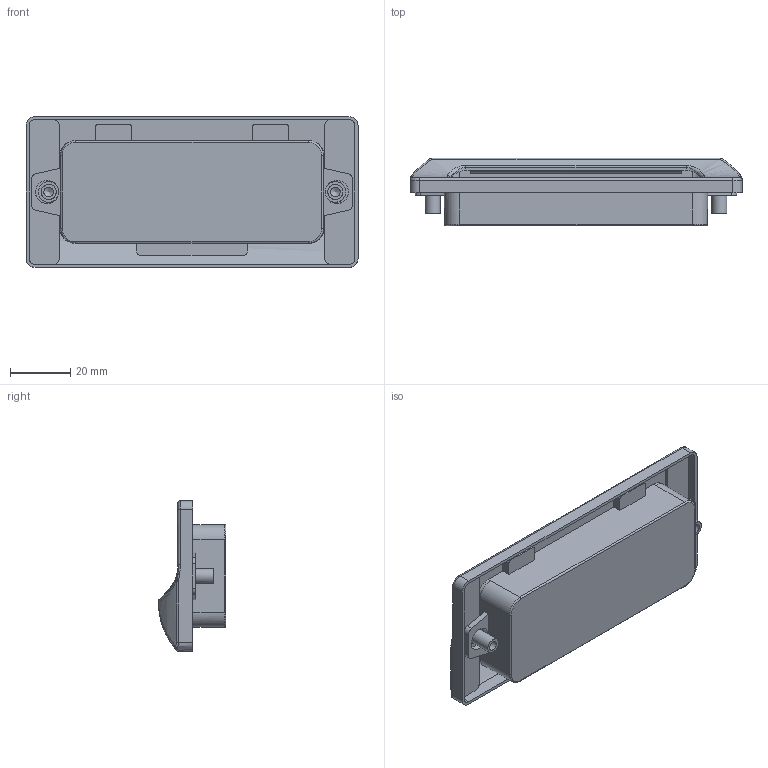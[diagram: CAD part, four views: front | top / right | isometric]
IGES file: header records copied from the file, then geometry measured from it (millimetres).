
Global section: file name: DR_A-MS12; native system: Autodesk Inventor 2015; preprocessor: unknown; author: Administrator; date: 20170718.104342; units: millimetre
Bounding box: 110 x 22.49 x 50 mm (x, y, z)
Volume: 21759.3 mm3; surface area: 28738.5 mm2
Topology: 3 solids, 3 shells, 202 faces, 516 edges, 325 vertices
Faces by surface type: bspline 202
